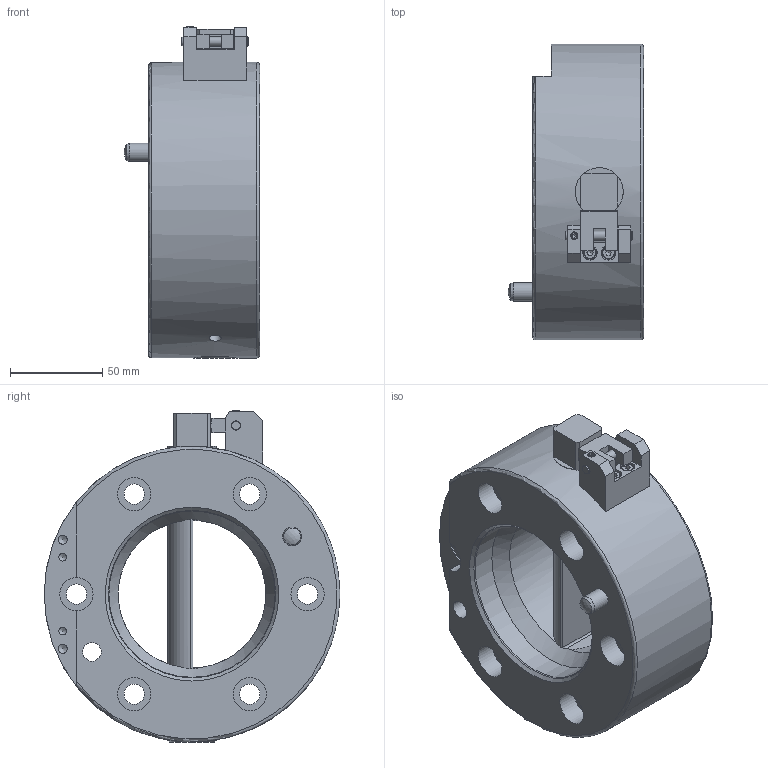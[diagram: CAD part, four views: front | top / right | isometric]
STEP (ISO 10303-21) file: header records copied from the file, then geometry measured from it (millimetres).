
FILE_DESCRIPTION(/* description */ (''),/* implementation_level */ '2;1');
FILE_NAME(/* name */ '\\dc01\daten\CAD\Standard\Daten\3D-Datenbank\Webseite 2020\SWS\160\G-SWS160-2OE-B02.stp',/* time_stamp */ '2020-05-05T13:19:55+02:00',/* author */ ('ysplieth'),/* organization */ (''),/* preprocessor_version */ 'ST-DEVELOPER v17',/* originating_system */ 'Autodesk Inventor 2018',/* authorisation */ '');
FILE_SCHEMA (('AUTOMOTIVE_DESIGN { 1 0 10303 214 3 1 1 }'));
Length unit declared in the file: millimetre
Products named in the file (1): G-SWS160-2OE-B02
Bounding box: 73.15 x 160 x 179.64 mm (x, y, z)
Volume: 853649.4 mm3; surface area: 119249.1 mm2
Topology: 10 solids, 10 shells, 184 faces, 506 edges, 348 vertices
Faces by surface type: plane 90, cylinder 55, cone 24, torus 9, bspline 4, sphere 2
Full cylindrical faces by diameter (mm): 3.242 x3, 4 x3, 4.134 x2, 4.5 x2, 5 x5, 5.1 x2, 5.5 x1, 6.5 x1, 6.647 x1, 7 x2, 8 x3, 10 x3, 11 x6, 18 x6, 26 x3, 80 x1, 90 x1, 160 x1
Entity records: 6713 total; most frequent: CARTESIAN_POINT 1676, DIRECTION 999, ORIENTED_EDGE 990, EDGE_CURVE 495, AXIS2_PLACEMENT_3D 390, VERTEX_POINT 348, EDGE_LOOP 239, LINE 219
